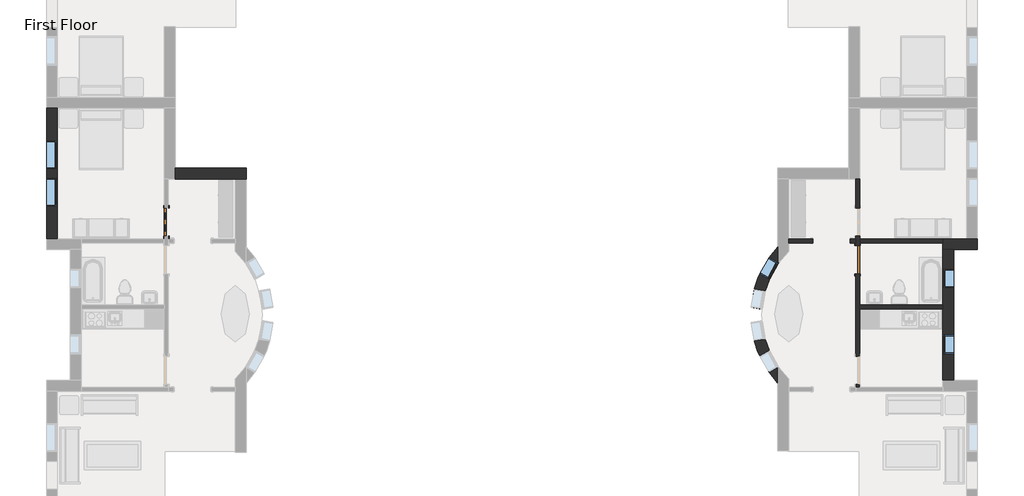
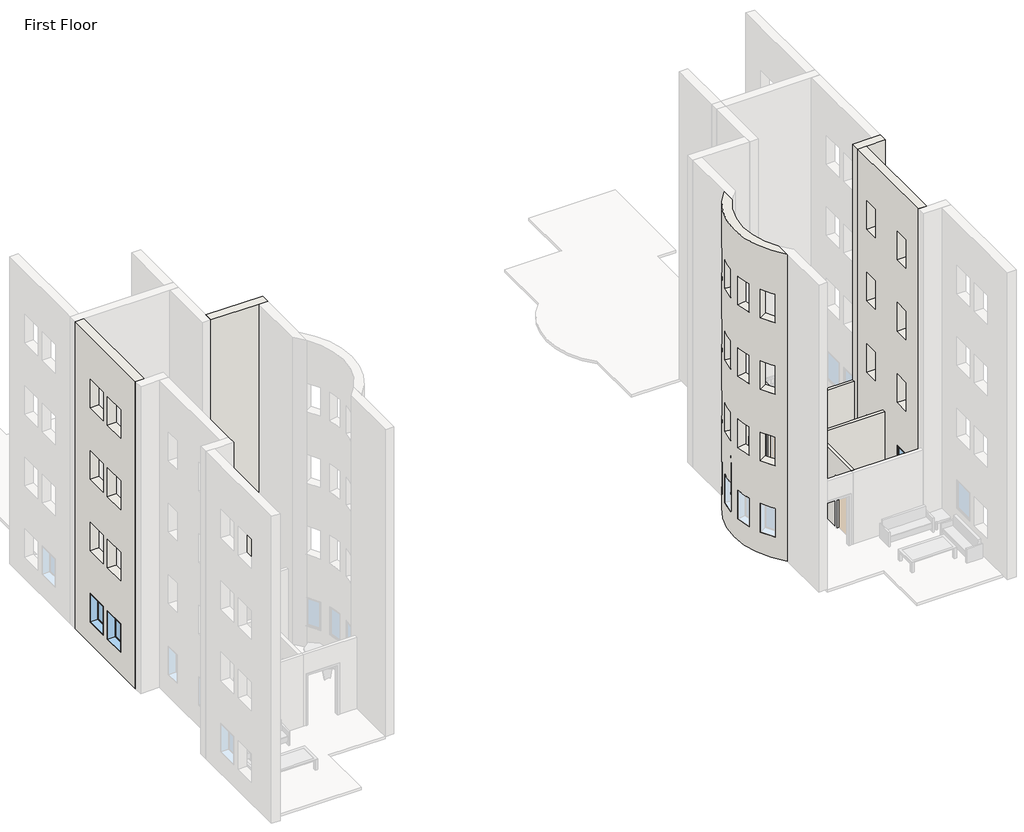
# One storey, part 7 of 21: 9 walls, 5 windows, 2 doors.
"""IFC4 building model written with IfcOpenShell, lengths in millimetres."""

from ifc_helpers import new_model, si_unit, frame, origin, origin_with_axes, place, context, project, spatial, polyline, circle_curve, outline, extrude, faceted_brep, transform, mapped, element, save
from ifc_brep_helpers import plane_surface, cylinder_surface, revolved_surface, advanced_brep
from components import door_829da954, door_a3eb833a, window_60baf983, window_0e2fc6ce

model = new_model("IFC4")

# Units and contexts
model_context = context("Model", 3, world=origin())
ifc_project = project(units=[si_unit("LENGTHUNIT", "METRE", prefix="MILLI")], contexts=[model_context])

# Site, building, storey
site = spatial("IfcSite", under=ifc_project)
building = spatial("IfcBuilding", under=site)
storey = spatial("IfcBuildingStorey", under=building, Name="First Floor", Elevation=0.0)

# Doors
placement = place(None, origin())
door_shape = door_829da954(model_context)
element("IfcDoor", 1, ObjectType="Single-Decorative 2 : 36\" x 84\"", at=placement, inside=storey, context=model_context, shape_type="MappedRepresentation", body=[
    mapped(door_shape, transform((-26223.8839563, -15695.1308133, 0.0), x_axis=(0.0, -1.0, 0.0), y_axis=(1.0, 0.0, 0.0), z_axis=(0.0, 0.0, 1.0))),
])
door_2_shape = door_a3eb833a(model_context)
element("IfcDoor", 2, ObjectType="Single-Flush : 36\" x 84\"", at=placement, inside=storey, context=model_context, shape_type="MappedRepresentation", body=[
    mapped(door_2_shape, transform((-3900.4589563, -16914.3308133, 0.0), x_axis=(0.0, 1.0, 0.0), y_axis=(-1.0, 0.0, 0.0), z_axis=(0.0, 0.0, 1.0))),
])

# Walls
element("IfcWall", 3, ObjectType="Exterior - Brick on Mtl. Stud", at=placement, inside=storey, context=model_context, shape_type="Brep", body=[
    faceted_brep([(-26.9589563, -16241.2308133, 0.0), (-379.3839563, -16241.2308133, 0.0), (-1141.3839563, -16241.2308133, 0.0), (-1141.3839563, -16241.2308133, 3048.0), (-1141.3839563, -16241.2308133, 13106.4), (-379.3839563, -16241.2308133, 13106.4), (-26.9589563, -16241.2308133, 13106.4), (-26.9589563, -16593.6558133, 0.0), (-26.9589563, -16593.6558133, 13106.4), (-788.9589563, -16593.6558133, 13106.4), (-1141.3839563, -16593.6558133, 13106.4), (-1141.3839563, -16593.6558133, 0.0), (-788.9589563, -16593.6558133, 0.0), (-1141.3839563, -16368.2308133, 0.0)], [[[0, 1, 2, 3, 4, 5, 6]], [[7, 8, 9, 10, 11, 12]], [[2, 1, 0, 7, 12, 11, 13]], [[6, 5, 4, 10, 9, 8]], [[0, 6, 8, 7]], [[2, 13, 11, 10, 4, 3]]]),
])
element("IfcWall", 4, ObjectType="Exterior - Brick on Mtl. Stud", at=placement, inside=storey, context=model_context, shape_type="Brep", body=[
    faceted_brep([(-1141.3839563, -16593.6558133, 0.0), (-1141.3839563, -18374.8308133, 0.0), (-1141.3839563, -18501.8308133, 0.0), (-1141.3839563, -20813.2308133, 0.0), (-1141.3839563, -20813.2308133, 13106.4), (-1141.3839563, -16593.6558133, 13106.4), (-1141.3839563, -17219.1308133, 8229.6), (-1141.3839563, -17828.7308133, 8229.6), (-1141.3839563, -17828.7308133, 7010.4), (-1141.3839563, -17219.1308133, 7010.4), (-1141.3839563, -19352.7308133, 8229.6), (-1141.3839563, -19962.3308133, 8229.6), (-1141.3839563, -19962.3308133, 7010.4), (-1141.3839563, -19352.7308133, 7010.4), (-1141.3839563, -17219.1308133, 5181.6), (-1141.3839563, -17828.7308133, 5181.6), (-1141.3839563, -17828.7308133, 3962.4), (-1141.3839563, -17219.1308133, 3962.4), (-1141.3839563, -19352.7308133, 5181.6), (-1141.3839563, -19962.3308133, 5181.6), (-1141.3839563, -19962.3308133, 3962.4), (-1141.3839563, -19352.7308133, 3962.4), (-1141.3839563, -17219.1308133, 11277.6), (-1141.3839563, -17828.7308133, 11277.6), (-1141.3839563, -17828.7308133, 10058.4), (-1141.3839563, -17219.1308133, 10058.4), (-1141.3839563, -19352.7308133, 11277.6), (-1141.3839563, -19962.3308133, 11277.6), (-1141.3839563, -19962.3308133, 10058.4), (-1141.3839563, -19352.7308133, 10058.4), (-1141.3839563, -17219.1308133, 2133.6), (-1141.3839563, -17828.7308133, 2133.6), (-1141.3839563, -17828.7308133, 914.4), (-1141.3839563, -17219.1308133, 914.4), (-1141.3839563, -19352.7308133, 2133.6), (-1141.3839563, -19962.3308133, 2133.6), (-1141.3839563, -19962.3308133, 914.4), (-1141.3839563, -19352.7308133, 914.4), (-788.9589563, -16593.6558133, 0.0), (-788.9589563, -16593.6558133, 13106.4), (-788.9589563, -20813.2308133, 13106.4), (-788.9589563, -20813.2308133, 0.0), (-788.9589563, -17219.1308133, 8229.6), (-788.9589563, -17219.1308133, 7010.4), (-788.9589563, -17828.7308133, 7010.4), (-788.9589563, -17828.7308133, 8229.6), (-788.9589563, -19352.7308133, 8229.6), (-788.9589563, -19352.7308133, 7010.4), (-788.9589563, -19962.3308133, 7010.4), (-788.9589563, -19962.3308133, 8229.6), (-788.9589563, -17219.1308133, 5181.6), (-788.9589563, -17219.1308133, 3962.4), (-788.9589563, -17828.7308133, 3962.4), (-788.9589563, -17828.7308133, 5181.6), (-788.9589563, -19352.7308133, 5181.6), (-788.9589563, -19352.7308133, 3962.4), (-788.9589563, -19962.3308133, 3962.4), (-788.9589563, -19962.3308133, 5181.6), (-788.9589563, -17219.1308133, 11277.6), (-788.9589563, -17219.1308133, 10058.4), (-788.9589563, -17828.7308133, 10058.4), (-788.9589563, -17828.7308133, 11277.6), (-788.9589563, -19352.7308133, 11277.6), (-788.9589563, -19352.7308133, 10058.4), (-788.9589563, -19962.3308133, 10058.4), (-788.9589563, -19962.3308133, 11277.6), (-788.9589563, -17219.1308133, 2133.6), (-788.9589563, -17219.1308133, 914.4), (-788.9589563, -17828.7308133, 914.4), (-788.9589563, -17828.7308133, 2133.6), (-788.9589563, -19352.7308133, 2133.6), (-788.9589563, -19352.7308133, 914.4), (-788.9589563, -19962.3308133, 914.4), (-788.9589563, -19962.3308133, 2133.6)], [[[0, 1, 2, 3, 4, 5], [6, 7, 8, 9], [10, 11, 12, 13], [14, 15, 16, 17], [18, 19, 20, 21], [22, 23, 24, 25], [26, 27, 28, 29], [30, 31, 32, 33], [34, 35, 36, 37]], [[38, 39, 40, 41], [42, 43, 44, 45], [46, 47, 48, 49], [50, 51, 52, 53], [54, 55, 56, 57], [58, 59, 60, 61], [62, 63, 64, 65], [66, 67, 68, 69], [70, 71, 72, 73]], [[3, 2, 1, 0, 38, 41]], [[5, 4, 40, 39]], [[0, 5, 39, 38]], [[4, 3, 41, 40]], [[43, 42, 6, 9]], [[44, 43, 9, 8]], [[45, 44, 8, 7]], [[42, 45, 7, 6]], [[47, 46, 10, 13]], [[48, 47, 13, 12]], [[49, 48, 12, 11]], [[46, 49, 11, 10]], [[51, 50, 14, 17]], [[52, 51, 17, 16]], [[53, 52, 16, 15]], [[50, 53, 15, 14]], [[55, 54, 18, 21]], [[56, 55, 21, 20]], [[57, 56, 20, 19]], [[54, 57, 19, 18]], [[59, 58, 22, 25]], [[60, 59, 25, 24]], [[61, 60, 24, 23]], [[58, 61, 23, 22]], [[63, 62, 26, 29]], [[64, 63, 29, 28]], [[65, 64, 28, 27]], [[62, 65, 27, 26]], [[67, 66, 30, 33]], [[68, 67, 33, 32]], [[69, 68, 32, 31]], [[66, 69, 31, 30]], [[71, 70, 34, 37]], [[72, 71, 37, 36]], [[73, 72, 36, 35]], [[70, 73, 35, 34]]]),
])
element("IfcWall", 5, ObjectType="Exterior - Brick on Mtl. Stud", at=placement, inside=storey, context=model_context, shape_type="AdvancedBrep", body=[
    advanced_brep(
    [(-6475.3839563, -20349.9339631, 13106.4), (-6475.3839563, -17056.9526635, 13106.4), (-6475.3839563, -16499.0580793, 13106.4), (-6475.3839563, -20907.8285473, 13106.4), (-6475.3839563, -17056.9526635, 0.0), (-6475.3839563, -20349.9339631, 0.0), (-6475.3839563, -20907.8285473, 0.0), (-6475.3839563, -16499.0580793, 0.0), (-6475.3839563, -20349.9339631, 11277.6), (-6752.944107, -19855.7185526, 11277.6), (-6752.944107, -19855.7185526, 10058.4), (-6475.3839563, -20349.9339631, 10058.4), (-6475.3839563, -20349.9339631, 8229.6), (-6752.944107, -19855.7185526, 8229.6), (-6752.944107, -19855.7185526, 7010.4), (-6475.3839563, -20349.9339631, 7010.4), (-6475.3839563, -20349.9339631, 5181.6), (-6752.944107, -19855.7185526, 5181.6), (-6752.944107, -19855.7185526, 3962.4), (-6475.3839563, -20349.9339631, 3962.4), (-6475.3839563, -20349.9339631, 2133.6), (-6752.944107, -19855.7185526, 2133.6), (-6752.944107, -19855.7185526, 914.4), (-6475.3839563, -20349.9339631, 914.4), (-6475.3839563, -17056.9526635, 914.4), (-6752.944107, -17551.168074, 914.4), (-6752.944107, -17551.168074, 2133.6), (-6475.3839563, -17056.9526635, 2133.6), (-6475.3839563, -17056.9526635, 3962.4), (-6752.944107, -17551.168074, 3962.4), (-6752.944107, -17551.168074, 5181.6), (-6475.3839563, -17056.9526635, 5181.6), (-6475.3839563, -17056.9526635, 7010.4), (-6752.944107, -17551.168074, 7010.4), (-6752.944107, -17551.168074, 8229.6), (-6475.3839563, -17056.9526635, 8229.6), (-6475.3839563, -17056.9526635, 10058.4), (-6752.944107, -17551.168074, 10058.4), (-6752.944107, -17551.168074, 11277.6), (-6475.3839563, -17056.9526635, 11277.6), (-6988.33136, -18887.7477595, 8229.6), (-6988.33136, -18887.7477595, 7010.4), (-6884.862554, -19488.5025899, 7010.4), (-6884.862554, -19488.5025899, 8229.6), (-6988.33136, -18519.1388671, 8229.6), (-6884.862554, -17918.3840368, 8229.6), (-6884.862554, -17918.3840368, 7010.4), (-6988.33136, -18519.1388671, 7010.4), (-6988.33136, -18887.7477595, 5181.6), (-6988.33136, -18887.7477595, 3962.4), (-6884.862554, -19488.5025899, 3962.4), (-6884.862554, -19488.5025899, 5181.6), (-6988.33136, -18519.1388671, 5181.6), (-6884.862554, -17918.3840368, 5181.6), (-6884.862554, -17918.3840368, 3962.4), (-6988.33136, -18519.1388671, 3962.4), (-6988.33136, -18887.7477595, 11277.6), (-6988.33136, -18887.7477595, 10058.4), (-6884.862554, -19488.5025899, 10058.4), (-6884.862554, -19488.5025899, 11277.6), (-6988.33136, -18519.1388671, 11277.6), (-6884.862554, -17918.3840368, 11277.6), (-6884.862554, -17918.3840368, 10058.4), (-6988.33136, -18519.1388671, 10058.4), (-6988.33136, -18887.7477595, 2133.6), (-6988.33136, -18887.7477595, 914.4), (-6884.862554, -19488.5025899, 914.4), (-6884.862554, -19488.5025899, 2133.6), (-6988.33136, -18519.1388671, 2133.6), (-6884.862554, -17918.3840368, 2133.6), (-6884.862554, -17918.3840368, 914.4), (-6988.33136, -18519.1388671, 914.4), (-7060.4709271, -17375.4139611, 2133.6), (-7060.4709271, -17375.4139611, 914.4), (-6757.9928429, -16846.1511071, 914.4), (-6757.9928429, -16846.1511071, 2133.6), (-7060.4709271, -20031.4726656, 914.4), (-7060.4709271, -20031.4726656, 2133.6), (-6757.9928429, -20560.7355195, 2133.6), (-6757.9928429, -20560.7355195, 914.4), (-7060.4709271, -17375.4139611, 11277.6), (-7060.4709271, -17375.4139611, 10058.4), (-6757.9928429, -16846.1511071, 10058.4), (-6757.9928429, -16846.1511071, 11277.6), (-7060.4709271, -20031.4726656, 10058.4), (-7060.4709271, -20031.4726656, 11277.6), (-6757.9928429, -20560.7355195, 11277.6), (-6757.9928429, -20560.7355195, 10058.4), (-7060.4709271, -17375.4139611, 5181.6), (-7060.4709271, -17375.4139611, 3962.4), (-6757.9928429, -16846.1511071, 3962.4), (-6757.9928429, -16846.1511071, 5181.6), (-7060.4709271, -20031.4726656, 3962.4), (-7060.4709271, -20031.4726656, 5181.6), (-6757.9928429, -20560.7355195, 5181.6), (-6757.9928429, -20560.7355195, 3962.4), (-7060.4709271, -17375.4139611, 8229.6), (-7060.4709271, -17375.4139611, 7010.4), (-6757.9928429, -16846.1511071, 7010.4), (-6757.9928429, -16846.1511071, 8229.6), (-7060.4709271, -20031.4726656, 7010.4), (-7060.4709271, -20031.4726656, 8229.6), (-6757.9928429, -20560.7355195, 8229.6), (-6757.9928429, -20560.7355195, 7010.4), (-7337.3984091, -18947.8680431, 8229.6), (-7233.9296032, -19548.6228734, 8229.6), (-7233.9296032, -19548.6228734, 7010.4), (-7337.3984091, -18947.8680431, 7010.4), (-7337.3984091, -18459.0185836, 8229.6), (-7337.3984091, -18459.0185836, 7010.4), (-7233.9296032, -17858.2637532, 7010.4), (-7233.9296032, -17858.2637532, 8229.6), (-7337.3984091, -18947.8680431, 5181.6), (-7233.9296032, -19548.6228734, 5181.6), (-7233.9296032, -19548.6228734, 3962.4), (-7337.3984091, -18947.8680431, 3962.4), (-7337.3984091, -18459.0185836, 5181.6), (-7337.3984091, -18459.0185836, 3962.4), (-7233.9296032, -17858.2637532, 3962.4), (-7233.9296032, -17858.2637532, 5181.6), (-7337.3984091, -18947.8680431, 11277.6), (-7233.9296032, -19548.6228734, 11277.6), (-7233.9296032, -19548.6228734, 10058.4), (-7337.3984091, -18947.8680431, 10058.4), (-7337.3984091, -18459.0185836, 11277.6), (-7337.3984091, -18459.0185836, 10058.4), (-7233.9296032, -17858.2637532, 10058.4), (-7233.9296032, -17858.2637532, 11277.6), (-7337.3984091, -18947.8680431, 2133.6), (-7233.9296032, -19548.6228734, 2133.6), (-7233.9296032, -19548.6228734, 914.4), (-7337.3984091, -18947.8680431, 914.4), (-7337.3984091, -18459.0185836, 2133.6), (-7337.3984091, -18459.0185836, 914.4), (-7233.9296032, -17858.2637532, 914.4), (-7233.9296032, -17858.2637532, 2133.6), (-6475.3839563, -20399.222211, 914.4), (-6475.3839563, -20399.222211, 2133.6), (-6475.3839563, -20399.222211, 3962.4), (-6475.3839563, -20399.222211, 5181.6), (-6475.3839563, -20399.222211, 7010.4), (-6475.3839563, -20399.222211, 8229.6), (-6475.3839563, -20399.222211, 10058.4), (-6475.3839563, -20399.222211, 11277.6), (-6475.3839563, -17007.6644156, 11277.6), (-6475.3839563, -17007.6644156, 10058.4), (-6475.3839563, -17007.6644156, 8229.6), (-6475.3839563, -17007.6644156, 7010.4), (-6475.3839563, -17007.6644156, 5181.6), (-6475.3839563, -17007.6644156, 3962.4), (-6475.3839563, -17007.6644156, 2133.6), (-6475.3839563, -17007.6644156, 914.4)],
    [
        (0, 1, circle_curve(frame((-4122.4640713, -18703.4433133, 13106.4), z_axis=(0.0, 0.0, -1.0), x_axis=(0.0, -1.0, 0.0)), 2871.7875)),
        (1, 2),
        (2, 3, circle_curve(frame((-4122.4640713, -18703.4433133, 13106.4), z_axis=(0.0, 0.0, 1.0), x_axis=(0.0, -1.0, 0.0)), 3224.2125)),
        (3, 0),
        (4, 5, circle_curve(frame((-4122.4640713, -18703.4433133, 0.0), z_axis=(0.0, 0.0, 1.0), x_axis=(0.0, -1.0, 0.0)), 2871.7875)),
        (5, 6),
        (6, 7, circle_curve(frame((-4122.4640713, -18703.4433133, 0.0), z_axis=(0.0, 0.0, -1.0), x_axis=(0.0, -1.0, 0.0)), 3224.2125)),
        (7, 4),
        (0, 8),
        (8, 9, circle_curve(frame((-4122.4640713, -18703.4433133, 11277.6), z_axis=(0.0, 0.0, -1.0), x_axis=(0.0, -1.0, 0.0)), 2871.7875)),
        (9, 10),
        (10, 11, circle_curve(frame((-4122.4640713, -18703.4433133, 10058.4), z_axis=(0.0, 0.0, 1.0), x_axis=(0.0, -1.0, 0.0)), 2871.7875)),
        (11, 12),
        (12, 13, circle_curve(frame((-4122.4640713, -18703.4433133, 8229.6), z_axis=(0.0, 0.0, -1.0), x_axis=(0.0, -1.0, 0.0)), 2871.7875)),
        (13, 14),
        (14, 15, circle_curve(frame((-4122.4640713, -18703.4433133, 7010.4), z_axis=(0.0, 0.0, 1.0), x_axis=(0.0, -1.0, 0.0)), 2871.7875)),
        (15, 16),
        (16, 17, circle_curve(frame((-4122.4640713, -18703.4433133, 5181.6), z_axis=(0.0, 0.0, -1.0), x_axis=(0.0, -1.0, 0.0)), 2871.7875)),
        (17, 18),
        (18, 19, circle_curve(frame((-4122.4640713, -18703.4433133, 3962.4), z_axis=(0.0, 0.0, 1.0), x_axis=(0.0, -1.0, 0.0)), 2871.7875)),
        (19, 20),
        (20, 21, circle_curve(frame((-4122.4640713, -18703.4433133, 2133.6), z_axis=(0.0, 0.0, -1.0), x_axis=(0.0, -1.0, 0.0)), 2871.7875)),
        (21, 22),
        (22, 23, circle_curve(frame((-4122.4640713, -18703.4433133, 914.4), z_axis=(0.0, 0.0, 1.0), x_axis=(0.0, -1.0, 0.0)), 2871.7875)),
        (23, 5),
        (4, 24),
        (24, 25, circle_curve(frame((-4122.4640713, -18703.4433133, 914.4), z_axis=(0.0, 0.0, 1.0), x_axis=(0.0, -1.0, 0.0)), 2871.7875)),
        (25, 26),
        (26, 27, circle_curve(frame((-4122.4640713, -18703.4433133, 2133.6), z_axis=(0.0, 0.0, -1.0), x_axis=(0.0, -1.0, 0.0)), 2871.7875)),
        (27, 28),
        (28, 29, circle_curve(frame((-4122.4640713, -18703.4433133, 3962.4), z_axis=(0.0, 0.0, 1.0), x_axis=(0.0, -1.0, 0.0)), 2871.7875)),
        (29, 30),
        (30, 31, circle_curve(frame((-4122.4640713, -18703.4433133, 5181.6), z_axis=(0.0, 0.0, -1.0), x_axis=(0.0, -1.0, 0.0)), 2871.7875)),
        (31, 32),
        (32, 33, circle_curve(frame((-4122.4640713, -18703.4433133, 7010.4), z_axis=(0.0, 0.0, 1.0), x_axis=(0.0, -1.0, 0.0)), 2871.7875)),
        (33, 34),
        (34, 35, circle_curve(frame((-4122.4640713, -18703.4433133, 8229.6), z_axis=(0.0, 0.0, -1.0), x_axis=(0.0, -1.0, 0.0)), 2871.7875)),
        (35, 36),
        (36, 37, circle_curve(frame((-4122.4640713, -18703.4433133, 10058.4), z_axis=(0.0, 0.0, 1.0), x_axis=(0.0, -1.0, 0.0)), 2871.7875)),
        (37, 38),
        (38, 39, circle_curve(frame((-4122.4640713, -18703.4433133, 11277.6), z_axis=(0.0, 0.0, -1.0), x_axis=(0.0, -1.0, 0.0)), 2871.7875)),
        (39, 1),
        (40, 41),
        (41, 42, circle_curve(frame((-4122.4640713, -18703.4433133, 7010.4), z_axis=(0.0, 0.0, 1.0), x_axis=(0.0, -1.0, 0.0)), 2871.7875)),
        (42, 43),
        (43, 40, circle_curve(frame((-4122.4640713, -18703.4433133, 8229.6), z_axis=(0.0, 0.0, -1.0), x_axis=(0.0, -1.0, 0.0)), 2871.7875)),
        (44, 45, circle_curve(frame((-4122.4640713, -18703.4433133, 8229.6), z_axis=(0.0, 0.0, -1.0), x_axis=(0.0, -1.0, 0.0)), 2871.7875)),
        (45, 46),
        (46, 47, circle_curve(frame((-4122.4640713, -18703.4433133, 7010.4), z_axis=(0.0, 0.0, 1.0), x_axis=(0.0, -1.0, 0.0)), 2871.7875)),
        (47, 44),
        (48, 49),
        (49, 50, circle_curve(frame((-4122.4640713, -18703.4433133, 3962.4), z_axis=(0.0, 0.0, 1.0), x_axis=(0.0, -1.0, 0.0)), 2871.7875)),
        (50, 51),
        (51, 48, circle_curve(frame((-4122.4640713, -18703.4433133, 5181.6), z_axis=(0.0, 0.0, -1.0), x_axis=(0.0, -1.0, 0.0)), 2871.7875)),
        (52, 53, circle_curve(frame((-4122.4640713, -18703.4433133, 5181.6), z_axis=(0.0, 0.0, -1.0), x_axis=(0.0, -1.0, 0.0)), 2871.7875)),
        (53, 54),
        (54, 55, circle_curve(frame((-4122.4640713, -18703.4433133, 3962.4), z_axis=(0.0, 0.0, 1.0), x_axis=(0.0, -1.0, 0.0)), 2871.7875)),
        (55, 52),
        (56, 57),
        (57, 58, circle_curve(frame((-4122.4640713, -18703.4433133, 10058.4), z_axis=(0.0, 0.0, 1.0), x_axis=(0.0, -1.0, 0.0)), 2871.7875)),
        (58, 59),
        (59, 56, circle_curve(frame((-4122.4640713, -18703.4433133, 11277.6), z_axis=(0.0, 0.0, -1.0), x_axis=(0.0, -1.0, 0.0)), 2871.7875)),
        (60, 61, circle_curve(frame((-4122.4640713, -18703.4433133, 11277.6), z_axis=(0.0, 0.0, -1.0), x_axis=(0.0, -1.0, 0.0)), 2871.7875)),
        (61, 62),
        (62, 63, circle_curve(frame((-4122.4640713, -18703.4433133, 10058.4), z_axis=(0.0, 0.0, 1.0), x_axis=(0.0, -1.0, 0.0)), 2871.7875)),
        (63, 60),
        (64, 65),
        (65, 66, circle_curve(frame((-4122.4640713, -18703.4433133, 914.4), z_axis=(0.0, 0.0, 1.0), x_axis=(0.0, -1.0, 0.0)), 2871.7875)),
        (66, 67),
        (67, 64, circle_curve(frame((-4122.4640713, -18703.4433133, 2133.6), z_axis=(0.0, 0.0, -1.0), x_axis=(0.0, -1.0, 0.0)), 2871.7875)),
        (68, 69, circle_curve(frame((-4122.4640713, -18703.4433133, 2133.6), z_axis=(0.0, 0.0, -1.0), x_axis=(0.0, -1.0, 0.0)), 2871.7875)),
        (69, 70),
        (70, 71, circle_curve(frame((-4122.4640713, -18703.4433133, 914.4), z_axis=(0.0, 0.0, 1.0), x_axis=(0.0, -1.0, 0.0)), 2871.7875)),
        (71, 68),
        (2, 7),
        (6, 3),
        (72, 73),
        (73, 74, circle_curve(frame((-4122.4640713, -18703.4433133, 914.4), z_axis=(0.0, 0.0, -1.0), x_axis=(0.0, -1.0, 0.0)), 3224.2125)),
        (74, 75),
        (75, 72, circle_curve(frame((-4122.4640713, -18703.4433133, 2133.6), z_axis=(0.0, 0.0, 1.0), x_axis=(0.0, -1.0, 0.0)), 3224.2125)),
        (76, 77),
        (77, 78, circle_curve(frame((-4122.4640713, -18703.4433133, 2133.6), z_axis=(0.0, 0.0, 1.0), x_axis=(0.0, -1.0, 0.0)), 3224.2125)),
        (78, 79),
        (79, 76, circle_curve(frame((-4122.4640713, -18703.4433133, 914.4), z_axis=(0.0, 0.0, -1.0), x_axis=(0.0, -1.0, 0.0)), 3224.2125)),
        (80, 81),
        (81, 82, circle_curve(frame((-4122.4640713, -18703.4433133, 10058.4), z_axis=(0.0, 0.0, -1.0), x_axis=(0.0, -1.0, 0.0)), 3224.2125)),
        (82, 83),
        (83, 80, circle_curve(frame((-4122.4640713, -18703.4433133, 11277.6), z_axis=(0.0, 0.0, 1.0), x_axis=(0.0, -1.0, 0.0)), 3224.2125)),
        (84, 85),
        (85, 86, circle_curve(frame((-4122.4640713, -18703.4433133, 11277.6), z_axis=(0.0, 0.0, 1.0), x_axis=(0.0, -1.0, 0.0)), 3224.2125)),
        (86, 87),
        (87, 84, circle_curve(frame((-4122.4640713, -18703.4433133, 10058.4), z_axis=(0.0, 0.0, -1.0), x_axis=(0.0, -1.0, 0.0)), 3224.2125)),
        (88, 89),
        (89, 90, circle_curve(frame((-4122.4640713, -18703.4433133, 3962.4), z_axis=(0.0, 0.0, -1.0), x_axis=(0.0, -1.0, 0.0)), 3224.2125)),
        (90, 91),
        (91, 88, circle_curve(frame((-4122.4640713, -18703.4433133, 5181.6), z_axis=(0.0, 0.0, 1.0), x_axis=(0.0, -1.0, 0.0)), 3224.2125)),
        (92, 93),
        (93, 94, circle_curve(frame((-4122.4640713, -18703.4433133, 5181.6), z_axis=(0.0, 0.0, 1.0), x_axis=(0.0, -1.0, 0.0)), 3224.2125)),
        (94, 95),
        (95, 92, circle_curve(frame((-4122.4640713, -18703.4433133, 3962.4), z_axis=(0.0, 0.0, -1.0), x_axis=(0.0, -1.0, 0.0)), 3224.2125)),
        (96, 97),
        (97, 98, circle_curve(frame((-4122.4640713, -18703.4433133, 7010.4), z_axis=(0.0, 0.0, -1.0), x_axis=(0.0, -1.0, 0.0)), 3224.2125)),
        (98, 99),
        (99, 96, circle_curve(frame((-4122.4640713, -18703.4433133, 8229.6), z_axis=(0.0, 0.0, 1.0), x_axis=(0.0, -1.0, 0.0)), 3224.2125)),
        (100, 101),
        (101, 102, circle_curve(frame((-4122.4640713, -18703.4433133, 8229.6), z_axis=(0.0, 0.0, 1.0), x_axis=(0.0, -1.0, 0.0)), 3224.2125)),
        (102, 103),
        (103, 100, circle_curve(frame((-4122.4640713, -18703.4433133, 7010.4), z_axis=(0.0, 0.0, -1.0), x_axis=(0.0, -1.0, 0.0)), 3224.2125)),
        (104, 105, circle_curve(frame((-4122.4640713, -18703.4433133, 8229.6), z_axis=(0.0, 0.0, 1.0), x_axis=(0.0, -1.0, 0.0)), 3224.2125)),
        (105, 106),
        (106, 107, circle_curve(frame((-4122.4640713, -18703.4433133, 7010.4), z_axis=(0.0, 0.0, -1.0), x_axis=(0.0, -1.0, 0.0)), 3224.2125)),
        (107, 104),
        (108, 109),
        (109, 110, circle_curve(frame((-4122.4640713, -18703.4433133, 7010.4), z_axis=(0.0, 0.0, -1.0), x_axis=(0.0, -1.0, 0.0)), 3224.2125)),
        (110, 111),
        (111, 108, circle_curve(frame((-4122.4640713, -18703.4433133, 8229.6), z_axis=(0.0, 0.0, 1.0), x_axis=(0.0, -1.0, 0.0)), 3224.2125)),
        (112, 113, circle_curve(frame((-4122.4640713, -18703.4433133, 5181.6), z_axis=(0.0, 0.0, 1.0), x_axis=(0.0, -1.0, 0.0)), 3224.2125)),
        (113, 114),
        (114, 115, circle_curve(frame((-4122.4640713, -18703.4433133, 3962.4), z_axis=(0.0, 0.0, -1.0), x_axis=(0.0, -1.0, 0.0)), 3224.2125)),
        (115, 112),
        (116, 117),
        (117, 118, circle_curve(frame((-4122.4640713, -18703.4433133, 3962.4), z_axis=(0.0, 0.0, -1.0), x_axis=(0.0, -1.0, 0.0)), 3224.2125)),
        (118, 119),
        (119, 116, circle_curve(frame((-4122.4640713, -18703.4433133, 5181.6), z_axis=(0.0, 0.0, 1.0), x_axis=(0.0, -1.0, 0.0)), 3224.2125)),
        (120, 121, circle_curve(frame((-4122.4640713, -18703.4433133, 11277.6), z_axis=(0.0, 0.0, 1.0), x_axis=(0.0, -1.0, 0.0)), 3224.2125)),
        (121, 122),
        (122, 123, circle_curve(frame((-4122.4640713, -18703.4433133, 10058.4), z_axis=(0.0, 0.0, -1.0), x_axis=(0.0, -1.0, 0.0)), 3224.2125)),
        (123, 120),
        (124, 125),
        (125, 126, circle_curve(frame((-4122.4640713, -18703.4433133, 10058.4), z_axis=(0.0, 0.0, -1.0), x_axis=(0.0, -1.0, 0.0)), 3224.2125)),
        (126, 127),
        (127, 124, circle_curve(frame((-4122.4640713, -18703.4433133, 11277.6), z_axis=(0.0, 0.0, 1.0), x_axis=(0.0, -1.0, 0.0)), 3224.2125)),
        (128, 129, circle_curve(frame((-4122.4640713, -18703.4433133, 2133.6), z_axis=(0.0, 0.0, 1.0), x_axis=(0.0, -1.0, 0.0)), 3224.2125)),
        (129, 130),
        (130, 131, circle_curve(frame((-4122.4640713, -18703.4433133, 914.4), z_axis=(0.0, 0.0, -1.0), x_axis=(0.0, -1.0, 0.0)), 3224.2125)),
        (131, 128),
        (132, 133),
        (133, 134, circle_curve(frame((-4122.4640713, -18703.4433133, 914.4), z_axis=(0.0, 0.0, -1.0), x_axis=(0.0, -1.0, 0.0)), 3224.2125)),
        (134, 135),
        (135, 132, circle_curve(frame((-4122.4640713, -18703.4433133, 2133.6), z_axis=(0.0, 0.0, 1.0), x_axis=(0.0, -1.0, 0.0)), 3224.2125)),
        (23, 136),
        (136, 137),
        (137, 20),
        (19, 138),
        (138, 139),
        (139, 16),
        (15, 140),
        (140, 141),
        (141, 12),
        (11, 142),
        (142, 143),
        (143, 8),
        (39, 144),
        (144, 145),
        (145, 36),
        (35, 146),
        (146, 147),
        (147, 32),
        (31, 148),
        (148, 149),
        (149, 28),
        (27, 150),
        (150, 151),
        (151, 24),
        (72, 26),
        (25, 73),
        (151, 74),
        (150, 75),
        (21, 77),
        (76, 22),
        (79, 136),
        (78, 137),
        (80, 38),
        (37, 81),
        (145, 82),
        (144, 83),
        (9, 85),
        (84, 10),
        (87, 142),
        (86, 143),
        (88, 30),
        (29, 89),
        (149, 90),
        (148, 91),
        (17, 93),
        (92, 18),
        (95, 138),
        (94, 139),
        (96, 34),
        (33, 97),
        (147, 98),
        (146, 99),
        (13, 101),
        (100, 14),
        (103, 140),
        (102, 141),
        (40, 104),
        (107, 41),
        (106, 42),
        (105, 43),
        (108, 44),
        (47, 109),
        (46, 110),
        (45, 111),
        (48, 112),
        (115, 49),
        (114, 50),
        (113, 51),
        (116, 52),
        (55, 117),
        (54, 118),
        (53, 119),
        (56, 120),
        (123, 57),
        (122, 58),
        (121, 59),
        (124, 60),
        (63, 125),
        (62, 126),
        (61, 127),
        (64, 128),
        (131, 65),
        (130, 66),
        (129, 67),
        (132, 68),
        (71, 133),
        (70, 134),
        (69, 135),
    ],
    [
        plane_surface(frame((-4122.4640713, -21575.2308133, 13106.4), z_axis=(0.0, 0.0, 1.0), x_axis=(-1.0, 0.0, 0.0))),
        plane_surface(frame((-4122.4640713, -21575.2308133, 0.0), z_axis=(0.0, 0.0, -1.0), x_axis=(1.0, 0.0, 0.0))),
        revolved_surface(polyline([(-4122.4640713, -21575.230813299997, 0.0), (-4122.4640713, -21575.230813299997, 13106.4)]), (-4122.4640713, -18703.4433133, 0.0), (0.0, 0.0, -1.0)),
        cylinder_surface(frame((-4122.4640713, -18703.4433133, 0.0), z_axis=(0.0, 0.0, 1.0), x_axis=(0.0, -1.0, 0.0)), 3224.2125),
        plane_surface(frame((-6475.3839563, -23275.4433133, 0.0), z_axis=(1.0, 0.0, 0.0), x_axis=(0.0, -1.0, 0.0))),
        plane_surface(frame((-6475.3839563, -14131.4433133, 0.0), z_axis=(1.0, 0.0, 0.0), x_axis=(0.0, -1.0, 0.0))),
        plane_surface(frame((-5735.7670595, -18132.4931421, 2133.6), z_axis=(0.49619108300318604, 0.8682133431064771, 0.0), x_axis=(-0.8682133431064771, 0.49619108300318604, 0.0))),
        plane_surface(frame((-5735.7670595, -18132.4931421, 914.4), z_axis=(0.0, 0.0, 1.0), x_axis=(-0.8682133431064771, 0.49619108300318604, 0.0))),
        plane_surface(frame((-5433.2889753, -17603.2302881, 914.4), z_axis=(-0.49619108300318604, -0.8682133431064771, 0.0), x_axis=(-0.8682133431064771, 0.49619108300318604, 0.0))),
        plane_surface(frame((-5433.2889753, -17603.2302881, 2133.6), z_axis=(0.0, 0.0, -1.0), x_axis=(-0.8682133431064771, 0.49619108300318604, 0.0))),
        plane_surface(frame((-8382.0813293, -20786.7839056, 2133.6), z_axis=(0.49619108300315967, -0.8682133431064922, 0.0), x_axis=(0.8682133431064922, 0.49619108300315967, 0.0))),
        plane_surface(frame((-8382.0813293, -20786.7839056, 914.4), z_axis=(0.0, 0.0, 1.0), x_axis=(0.868213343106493, 0.4961910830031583, 0.0))),
        plane_surface(frame((-8079.6032451, -21316.0467595, 914.4), z_axis=(-0.4961910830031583, 0.868213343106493, 0.0), x_axis=(0.868213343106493, 0.4961910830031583, 0.0))),
        plane_surface(frame((-8079.6032451, -21316.0467595, 2133.6), z_axis=(0.0, 0.0, -1.0), x_axis=(0.868213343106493, 0.4961910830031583, 0.0))),
        plane_surface(frame((-5735.7670595, -18132.4931421, 11277.6), z_axis=(0.4961910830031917, 0.8682133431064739, 0.0), x_axis=(-0.8682133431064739, 0.4961910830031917, 0.0))),
        plane_surface(frame((-5735.7670595, -18132.4931421, 10058.4), z_axis=(0.0, 0.0, 1.0), x_axis=(-0.8682133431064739, 0.4961910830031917, 0.0))),
        plane_surface(frame((-5433.2889753, -17603.2302881, 10058.4), z_axis=(-0.4961910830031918, -0.8682133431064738, 0.0), x_axis=(-0.8682133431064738, 0.4961910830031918, 0.0))),
        plane_surface(frame((-5433.2889753, -17603.2302881, 11277.6), z_axis=(0.0, 0.0, -1.0), x_axis=(-0.8682133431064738, 0.4961910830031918, 0.0))),
        plane_surface(frame((-8382.0813293, -20786.7839056, 11277.6), z_axis=(0.4961910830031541, -0.8682133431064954, 0.0), x_axis=(0.8682133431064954, 0.4961910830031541, 0.0))),
        plane_surface(frame((-8382.0813293, -20786.7839056, 10058.4), z_axis=(0.0, 0.0, 1.0), x_axis=(0.8682133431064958, 0.49619108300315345, 0.0))),
        plane_surface(frame((-8079.6032451, -21316.0467595, 10058.4), z_axis=(-0.4961910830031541, 0.8682133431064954, 0.0), x_axis=(0.8682133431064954, 0.4961910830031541, 0.0))),
        plane_surface(frame((-8079.6032451, -21316.0467595, 11277.6), z_axis=(0.0, 0.0, -1.0000000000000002), x_axis=(0.8682133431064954, 0.4961910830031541, 0.0))),
        plane_surface(frame((-5735.7670595, -18132.4931421, 5181.6), z_axis=(0.4961910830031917, 0.8682133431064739, 0.0), x_axis=(-0.8682133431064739, 0.4961910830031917, 0.0))),
        plane_surface(frame((-5735.7670595, -18132.4931421, 3962.4), z_axis=(0.0, 0.0, 1.0), x_axis=(-0.8682133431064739, 0.4961910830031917, 0.0))),
        plane_surface(frame((-5433.2889753, -17603.2302881, 3962.4), z_axis=(-0.4961910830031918, -0.8682133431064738, 0.0), x_axis=(-0.8682133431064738, 0.4961910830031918, 0.0))),
        plane_surface(frame((-5433.2889753, -17603.2302881, 5181.6), z_axis=(0.0, 0.0, -1.0), x_axis=(-0.8682133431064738, 0.4961910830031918, 0.0))),
        plane_surface(frame((-8382.0813293, -20786.7839056, 5181.6), z_axis=(0.4961910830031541, -0.8682133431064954, 0.0), x_axis=(0.8682133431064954, 0.4961910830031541, 0.0))),
        plane_surface(frame((-8382.0813293, -20786.7839056, 3962.4), z_axis=(0.0, 0.0, 1.0), x_axis=(0.8682133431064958, 0.49619108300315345, 0.0))),
        plane_surface(frame((-8079.6032451, -21316.0467595, 3962.4), z_axis=(-0.4961910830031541, 0.8682133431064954, 0.0), x_axis=(0.8682133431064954, 0.4961910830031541, 0.0))),
        plane_surface(frame((-8079.6032451, -21316.0467595, 5181.6), z_axis=(0.0, 0.0, -1.0000000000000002), x_axis=(0.8682133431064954, 0.4961910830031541, 0.0))),
        plane_surface(frame((-5735.7670595, -18132.4931421, 8229.6), z_axis=(0.4961910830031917, 0.8682133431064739, 0.0), x_axis=(-0.8682133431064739, 0.4961910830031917, 0.0))),
        plane_surface(frame((-5735.7670595, -18132.4931421, 7010.4), z_axis=(0.0, 0.0, 1.0), x_axis=(-0.8682133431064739, 0.4961910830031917, 0.0))),
        plane_surface(frame((-5433.2889753, -17603.2302881, 7010.4), z_axis=(-0.4961910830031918, -0.8682133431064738, 0.0), x_axis=(-0.8682133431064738, 0.4961910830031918, 0.0))),
        plane_surface(frame((-5433.2889753, -17603.2302881, 8229.6), z_axis=(0.0, 0.0, -1.0), x_axis=(-0.8682133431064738, 0.4961910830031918, 0.0))),
        plane_surface(frame((-8382.0813293, -20786.7839056, 8229.6), z_axis=(0.4961910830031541, -0.8682133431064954, 0.0), x_axis=(0.8682133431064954, 0.4961910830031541, 0.0))),
        plane_surface(frame((-8382.0813293, -20786.7839056, 7010.4), z_axis=(0.0, 0.0, 1.0), x_axis=(0.8682133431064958, 0.49619108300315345, 0.0))),
        plane_surface(frame((-8079.6032451, -21316.0467595, 7010.4), z_axis=(-0.4961910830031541, 0.8682133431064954, 0.0), x_axis=(0.8682133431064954, 0.4961910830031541, 0.0))),
        plane_surface(frame((-8079.6032451, -21316.0467595, 8229.6), z_axis=(0.0, 0.0, -1.0000000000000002), x_axis=(0.8682133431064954, 0.4961910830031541, 0.0))),
        plane_surface(frame((-6988.33136, -18887.7477595, 8229.6), z_axis=(0.16973229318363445, -0.9854902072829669, 0.0), x_axis=(-0.9854902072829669, -0.16973229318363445, 0.0))),
        plane_surface(frame((-6988.33136, -18887.7477595, 7010.4), z_axis=(0.0, 0.0, 1.0), x_axis=(-0.9854902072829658, -0.1697322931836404, 0.0))),
        plane_surface(frame((-6884.862554, -19488.5025899, 7010.4), z_axis=(-0.1697322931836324, 0.9854902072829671, 0.0), x_axis=(-0.9854902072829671, -0.1697322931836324, 0.0))),
        plane_surface(frame((-6884.862554, -19488.5025899, 8229.6), z_axis=(0.0, 0.0, -1.0), x_axis=(-0.9854902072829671, -0.1697322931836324, 0.0))),
        plane_surface(frame((-7337.3984091, -18459.0185836, 8229.6), z_axis=(0.16973229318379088, 0.9854902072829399, 0.0), x_axis=(0.9854902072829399, -0.16973229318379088, 0.0))),
        plane_surface(frame((-7337.3984091, -18459.0185836, 7010.4), z_axis=(0.0, 0.0, 1.0), x_axis=(0.9854902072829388, -0.1697322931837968, 0.0))),
        plane_surface(frame((-7233.9296032, -17858.2637532, 7010.4), z_axis=(-0.16973229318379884, -0.9854902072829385, 0.0), x_axis=(0.9854902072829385, -0.16973229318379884, 0.0))),
        plane_surface(frame((-7233.9296032, -17858.2637532, 8229.6), z_axis=(0.0, 0.0, -1.0), x_axis=(0.9854902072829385, -0.16973229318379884, 0.0))),
        plane_surface(frame((-6988.33136, -18887.7477595, 5181.6), z_axis=(0.16973229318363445, -0.9854902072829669, 0.0), x_axis=(-0.9854902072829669, -0.16973229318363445, 0.0))),
        plane_surface(frame((-6988.33136, -18887.7477595, 3962.4), z_axis=(0.0, 0.0, 1.0), x_axis=(-0.9854902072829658, -0.1697322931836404, 0.0))),
        plane_surface(frame((-6884.862554, -19488.5025899, 3962.4), z_axis=(-0.1697322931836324, 0.9854902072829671, 0.0), x_axis=(-0.9854902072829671, -0.1697322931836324, 0.0))),
        plane_surface(frame((-6884.862554, -19488.5025899, 5181.6), z_axis=(0.0, 0.0, -1.0), x_axis=(-0.9854902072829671, -0.1697322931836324, 0.0))),
        plane_surface(frame((-7337.3984091, -18459.0185836, 5181.6), z_axis=(0.16973229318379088, 0.9854902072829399, 0.0), x_axis=(0.9854902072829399, -0.16973229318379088, 0.0))),
        plane_surface(frame((-7337.3984091, -18459.0185836, 3962.4), z_axis=(0.0, 0.0, 1.0), x_axis=(0.9854902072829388, -0.1697322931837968, 0.0))),
        plane_surface(frame((-7233.9296032, -17858.2637532, 3962.4), z_axis=(-0.16973229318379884, -0.9854902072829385, 0.0), x_axis=(0.9854902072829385, -0.16973229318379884, 0.0))),
        plane_surface(frame((-7233.9296032, -17858.2637532, 5181.6), z_axis=(0.0, 0.0, -1.0), x_axis=(0.9854902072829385, -0.16973229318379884, 0.0))),
        plane_surface(frame((-6988.33136, -18887.7477595, 11277.6), z_axis=(0.16973229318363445, -0.9854902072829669, 0.0), x_axis=(-0.9854902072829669, -0.16973229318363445, 0.0))),
        plane_surface(frame((-6988.33136, -18887.7477595, 10058.4), z_axis=(0.0, 0.0, 1.0), x_axis=(-0.9854902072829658, -0.1697322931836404, 0.0))),
        plane_surface(frame((-6884.862554, -19488.5025899, 10058.4), z_axis=(-0.1697322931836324, 0.9854902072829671, 0.0), x_axis=(-0.9854902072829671, -0.1697322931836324, 0.0))),
        plane_surface(frame((-6884.862554, -19488.5025899, 11277.6), z_axis=(0.0, 0.0, -1.0), x_axis=(-0.9854902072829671, -0.1697322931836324, 0.0))),
        plane_surface(frame((-7337.3984091, -18459.0185836, 11277.6), z_axis=(0.16973229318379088, 0.9854902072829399, 0.0), x_axis=(0.9854902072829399, -0.16973229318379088, 0.0))),
        plane_surface(frame((-7337.3984091, -18459.0185836, 10058.4), z_axis=(0.0, 0.0, 1.0), x_axis=(0.9854902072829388, -0.1697322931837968, 0.0))),
        plane_surface(frame((-7233.9296032, -17858.2637532, 10058.4), z_axis=(-0.16973229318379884, -0.9854902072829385, 0.0), x_axis=(0.9854902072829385, -0.16973229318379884, 0.0))),
        plane_surface(frame((-7233.9296032, -17858.2637532, 11277.6), z_axis=(0.0, 0.0, -1.0), x_axis=(0.9854902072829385, -0.16973229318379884, 0.0))),
        plane_surface(frame((-6988.33136, -18887.7477595, 2133.6), z_axis=(0.16973229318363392, -0.9854902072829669, 0.0), x_axis=(-0.9854902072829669, -0.16973229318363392, 0.0))),
        plane_surface(frame((-6988.33136, -18887.7477595, 914.4), z_axis=(0.0, 0.0, 1.0), x_axis=(-0.9854902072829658, -0.1697322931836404, 0.0))),
        plane_surface(frame((-6884.862554, -19488.5025899, 914.4), z_axis=(-0.16973229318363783, 0.9854902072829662, 0.0), x_axis=(-0.9854902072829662, -0.16973229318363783, 0.0))),
        plane_surface(frame((-6884.862554, -19488.5025899, 2133.6), z_axis=(0.0, 0.0, -1.0), x_axis=(-0.9854902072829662, -0.16973229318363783, 0.0))),
        plane_surface(frame((-7337.3984091, -18459.0185836, 2133.6), z_axis=(0.16973229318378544, 0.9854902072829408, 0.0), x_axis=(0.9854902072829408, -0.16973229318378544, 0.0))),
        plane_surface(frame((-7337.3984091, -18459.0185836, 914.4), z_axis=(0.0, 0.0, 1.0000000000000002), x_axis=(0.9854902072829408, -0.16973229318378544, 0.0))),
        plane_surface(frame((-7233.9296032, -17858.2637532, 914.4), z_axis=(-0.16973229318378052, -0.9854902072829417, 0.0), x_axis=(0.9854902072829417, -0.16973229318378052, 0.0))),
        plane_surface(frame((-7233.9296032, -17858.2637532, 2133.6), z_axis=(0.0, 0.0, -1.0000000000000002), x_axis=(0.9854902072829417, -0.16973229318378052, 0.0))),
    ],
    [
        (0, [[1, 2, 3, 4]]),
        (1, [[5, 6, 7, 8]]),
        (2, [[-1, 9, 10, 11, 12, 13, 14, 15, 16, 17, 18, 19, 20, 21, 22, 23, 24, 25, -5, 26, 27, 28, 29, 30, 31, 32, 33, 34, 35, 36, 37, 38, 39, 40, 41, 42], [43, 44, 45, 46], [47, 48, 49, 50], [51, 52, 53, 54], [55, 56, 57, 58], [59, 60, 61, 62], [63, 64, 65, 66], [67, 68, 69, 70], [71, 72, 73, 74]]),
        (3, [[-3, 75, -7, 76], [77, 78, 79, 80], [81, 82, 83, 84], [85, 86, 87, 88], [89, 90, 91, 92], [93, 94, 95, 96], [97, 98, 99, 100], [101, 102, 103, 104], [105, 106, 107, 108], [109, 110, 111, 112], [113, 114, 115, 116], [117, 118, 119, 120], [121, 122, 123, 124], [125, 126, 127, 128], [129, 130, 131, 132], [133, 134, 135, 136], [137, 138, 139, 140]]),
        (4, [[-4, -76, -6, -25, 141, 142, 143, -21, 144, 145, 146, -17, 147, 148, 149, -13, 150, 151, 152, -9]]),
        (5, [[-2, -42, 153, 154, 155, -38, 156, 157, 158, -34, 159, 160, 161, -30, 162, 163, 164, -26, -8, -75]]),
        (6, [[165, -28, 166, -77]]),
        (7, [[-166, -27, -164, 167, -78]]),
        (8, [[-167, -163, 168, -79]]),
        (9, [[-165, -80, -168, -162, -29]]),
        (10, [[169, -81, 170, -23]]),
        (11, [[-170, -84, 171, -141, -24]]),
        (12, [[-171, -83, 172, -142]]),
        (13, [[-169, -22, -143, -172, -82]]),
        (14, [[173, -40, 174, -85]]),
        (15, [[-174, -39, -155, 175, -86]]),
        (16, [[-175, -154, 176, -87]]),
        (17, [[-173, -88, -176, -153, -41]]),
        (18, [[177, -89, 178, -11]]),
        (19, [[-178, -92, 179, -150, -12]]),
        (20, [[-179, -91, 180, -151]]),
        (21, [[-177, -10, -152, -180, -90]]),
        (22, [[181, -32, 182, -93]]),
        (23, [[-182, -31, -161, 183, -94]]),
        (24, [[-183, -160, 184, -95]]),
        (25, [[-181, -96, -184, -159, -33]]),
        (26, [[185, -97, 186, -19]]),
        (27, [[-186, -100, 187, -144, -20]]),
        (28, [[-187, -99, 188, -145]]),
        (29, [[-185, -18, -146, -188, -98]]),
        (30, [[189, -36, 190, -101]]),
        (31, [[-190, -35, -158, 191, -102]]),
        (32, [[-191, -157, 192, -103]]),
        (33, [[-189, -104, -192, -156, -37]]),
        (34, [[193, -105, 194, -15]]),
        (35, [[-194, -108, 195, -147, -16]]),
        (36, [[-195, -107, 196, -148]]),
        (37, [[-193, -14, -149, -196, -106]]),
        (38, [[-43, 197, -112, 198]]),
        (39, [[-44, -198, -111, 199]]),
        (40, [[-45, -199, -110, 200]]),
        (41, [[-46, -200, -109, -197]]),
        (42, [[-113, 201, -50, 202]]),
        (43, [[-114, -202, -49, 203]]),
        (44, [[-115, -203, -48, 204]]),
        (45, [[-116, -204, -47, -201]]),
        (46, [[-51, 205, -120, 206]]),
        (47, [[-52, -206, -119, 207]]),
        (48, [[-53, -207, -118, 208]]),
        (49, [[-54, -208, -117, -205]]),
        (50, [[-121, 209, -58, 210]]),
        (51, [[-122, -210, -57, 211]]),
        (52, [[-123, -211, -56, 212]]),
        (53, [[-124, -212, -55, -209]]),
        (54, [[-59, 213, -128, 214]]),
        (55, [[-60, -214, -127, 215]]),
        (56, [[-61, -215, -126, 216]]),
        (57, [[-62, -216, -125, -213]]),
        (58, [[-129, 217, -66, 218]]),
        (59, [[-130, -218, -65, 219]]),
        (60, [[-131, -219, -64, 220]]),
        (61, [[-132, -220, -63, -217]]),
        (62, [[-67, 221, -136, 222]]),
        (63, [[-68, -222, -135, 223]]),
        (64, [[-69, -223, -134, 224]]),
        (65, [[-70, -224, -133, -221]]),
        (66, [[-137, 225, -74, 226]]),
        (67, [[-138, -226, -73, 227]]),
        (68, [[-139, -227, -72, 228]]),
        (69, [[-140, -228, -71, -225]]),
    ],
),
])
element("IfcWall", 6, ObjectType="Exterior - Brick on Mtl. Stud", at=placement, inside=storey, context=model_context, shape_type="Brep", body=[
    faceted_brep([(-25934.9589563, -14307.6558133, 0.0), (-24001.3839563, -14307.6558133, 0.0), (-23648.9589563, -14307.6558133, 0.0), (-23648.9589563, -14307.6558133, 13106.4), (-24001.3839563, -14307.6558133, 13106.4), (-25934.9589563, -14307.6558133, 13106.4), (-25934.9589563, -13955.2308133, 0.0), (-25934.9589563, -13955.2308133, 13106.4), (-23648.9589563, -13955.2308133, 13106.4), (-23648.9589563, -13955.2308133, 0.0)], [[[0, 1, 2, 3, 4, 5]], [[6, 7, 8, 9]], [[2, 1, 0, 6, 9]], [[5, 4, 3, 8, 7]], [[3, 2, 9, 8]], [[0, 5, 7, 6]]]),
])
element("IfcWall", 7, ObjectType="Exterior - Brick on Mtl. Stud", at=placement, inside=storey, context=model_context, shape_type="SweptSolid", body=[
    extrude(outline(polyline([(-12021.6558133, 0.0), (-16241.2308133, 0.0), (-16241.2308133, 13106.4), (-12021.6558133, 13106.4), (-12021.6558133, 0.0)]), holes=[polyline([(-13064.6433133, 2133.6), (-13979.0433133, 2133.6), (-13979.0433133, 914.4), (-13064.6433133, 914.4), (-13064.6433133, 2133.6)]), polyline([(-14283.8433133, 2133.6), (-15198.2433133, 2133.6), (-15198.2433133, 914.4), (-14283.8433133, 914.4), (-14283.8433133, 2133.6)]), polyline([(-13064.6433133, 11277.6), (-13979.0433133, 11277.6), (-13979.0433133, 10058.4), (-13064.6433133, 10058.4), (-13064.6433133, 11277.6)]), polyline([(-14283.8433133, 11277.6), (-15198.2433133, 11277.6), (-15198.2433133, 10058.4), (-14283.8433133, 10058.4), (-14283.8433133, 11277.6)]), polyline([(-13064.6433133, 5181.6), (-13979.0433133, 5181.6), (-13979.0433133, 3962.4), (-13064.6433133, 3962.4), (-13064.6433133, 5181.6)]), polyline([(-14283.8433133, 5181.6), (-15198.2433133, 5181.6), (-15198.2433133, 3962.4), (-14283.8433133, 3962.4), (-14283.8433133, 5181.6)]), polyline([(-13064.6433133, 8229.6), (-13979.0433133, 8229.6), (-13979.0433133, 7010.4), (-13064.6433133, 7010.4), (-13064.6433133, 8229.6)]), polyline([(-14283.8433133, 8229.6), (-15198.2433133, 8229.6), (-15198.2433133, 7010.4), (-14283.8433133, 7010.4), (-14283.8433133, 8229.6)])]), frame((-30097.3839563, 0.0, 0.0), z_axis=(1.0, 0.0, 0.0), x_axis=(0.0, 1.0, 0.0)), (0.0, 0.0, 1.0), 352.425),
])
element("IfcWall", 8, ObjectType="Interior - 5\" Partition (2-hr)", at=placement, inside=storey, context=model_context, shape_type="Brep", body=[
    faceted_brep([(-3963.9589563, -16152.3308133, 2133.6), (-3963.9589563, -16152.3308133, 0.0), (-3963.9589563, -16241.2308133, 0.0), (-3963.9589563, -16368.2308133, 0.0), (-3963.9589563, -16457.1308133, 0.0), (-3963.9589563, -16457.1308133, 2133.6), (-3963.9589563, -17371.5308133, 2133.6), (-3963.9589563, -17371.5308133, 0.0), (-3963.9589563, -20035.3558133, 0.0), (-3963.9589563, -20035.3558133, 2133.6), (-3963.9589563, -20949.7558133, 2133.6), (-3963.9589563, -20949.7558133, 0.0), (-3963.9589563, -21038.6558133, 0.0), (-3963.9589563, -21038.6558133, 3048.0), (-3963.9589563, -16368.2308133, 3048.0), (-3963.9589563, -16241.2308133, 3048.0), (-3963.9589563, -14307.6558133, 3048.0), (-3963.9589563, -14307.6558133, 0.0), (-3963.9589563, -15237.9308133, 0.0), (-3963.9589563, -15237.9308133, 2133.6), (-3836.9589563, -16457.1308133, 0.0), (-3836.9589563, -16368.2308133, 0.0), (-3836.9589563, -16241.2308133, 0.0), (-3836.9589563, -16152.3308133, 0.0), (-3836.9589563, -16152.3308133, 2133.6), (-3836.9589563, -15237.9308133, 2133.6), (-3836.9589563, -15237.9308133, 0.0), (-3836.9589563, -14307.6558133, 0.0), (-3836.9589563, -14307.6558133, 3048.0), (-3836.9589563, -16241.2308133, 3048.0), (-3836.9589563, -16368.2308133, 3048.0), (-3836.9589563, -18374.8308133, 3048.0), (-3836.9589563, -18501.8308133, 3048.0), (-3836.9589563, -21038.6558133, 3048.0), (-3836.9589563, -21038.6558133, 0.0), (-3836.9589563, -20949.7558133, 0.0), (-3836.9589563, -20949.7558133, 2133.6), (-3836.9589563, -20035.3558133, 2133.6), (-3836.9589563, -20035.3558133, 0.0), (-3836.9589563, -18501.8308133, 0.0), (-3836.9589563, -18374.8308133, 0.0), (-3836.9589563, -17371.5308133, 0.0), (-3836.9589563, -17371.5308133, 2133.6), (-3836.9589563, -16457.1308133, 2133.6)], [[[0, 1, 2, 3, 4, 5, 6, 7, 8, 9, 10, 11, 12, 13, 14, 15, 16, 17, 18, 19]], [[20, 21, 22, 23, 24, 25, 26, 27, 28, 29, 30, 31, 32, 33, 34, 35, 36, 37, 38, 39, 40, 41, 42, 43]], [[12, 11, 35, 34]], [[4, 3, 2, 1, 23, 22, 21, 20]], [[41, 40, 39, 38, 8, 7]], [[18, 17, 27, 26]], [[16, 15, 14, 13, 33, 32, 31, 30, 29, 28]], [[17, 16, 28, 27]], [[13, 12, 34, 33]], [[36, 35, 11, 10]], [[37, 36, 10, 9]], [[38, 37, 9, 8]], [[5, 4, 20, 43]], [[6, 5, 43, 42]], [[7, 6, 42, 41]], [[24, 23, 1, 0]], [[25, 24, 0, 19]], [[26, 25, 19, 18]]]),
])
element("IfcWall", 9, ObjectType="Interior - 5\" Partition (2-hr)", at=placement, inside=storey, context=model_context, shape_type="SweptSolid", body=[
    extrude(outline(polyline([(-3836.9589563, -16241.2308133), (-1141.3839563, -16241.2308133), (-1141.3839563, -16368.2308133), (-3836.9589563, -16368.2308133), (-3836.9589563, -16241.2308133)])), origin_with_axes(), (0.0, 0.0, 1.0), 3048.0),
])
element("IfcWall", 10, ObjectType="Interior - 5\" Partition (2-hr)", at=placement, inside=storey, context=model_context, shape_type="SweptSolid", body=[
    extrude(outline(polyline([(-1141.3839563, -18501.8308133), (-3836.9589563, -18501.8308133), (-3836.9589563, -18374.8308133), (-1141.3839563, -18374.8308133), (-1141.3839563, -18501.8308133)])), origin_with_axes(), (0.0, 0.0, 1.0), 3048.0),
])
element("IfcWall", 11, ObjectType="Interior - 5\" Partition (2-hr)", at=placement, inside=storey, context=model_context, shape_type="SweptSolid", body=[
    extrude(outline(polyline([(0.0, -6122.9589563), (0.0, -5348.2589563), (2133.6, -5348.2589563), (2133.6, -4129.0589563), (0.0, -4129.0589563), (0.0, -3963.9589563), (3048.0, -3963.9589563), (3048.0, -6122.9589563), (0.0, -6122.9589563)])), frame((0.0, -16368.2308133, 0.0), z_axis=(0.0, 1.0, 0.0), x_axis=(0.0, 0.0, 1.0)), (0.0, 0.0, 1.0), 127.0),
])

# Windows
window_shape = window_60baf983(model_context)
element("IfcWindow", 12, ObjectType="Fixed : 24\" x 48\"", at=placement, inside=storey, context=model_context, shape_type="MappedRepresentation", body=[
    mapped(window_shape, transform((-965.1714563, -19619.4308133, 0.0), x_axis=(0.0, 1.0, 0.0), y_axis=(-1.0, 0.0, 0.0), z_axis=(0.0, 0.0, 1.0))),
])
element("IfcWindow", 13, ObjectType="Fixed : 24\" x 48\"", at=placement, inside=storey, context=model_context, shape_type="MappedRepresentation", body=[
    mapped(window_shape, transform((-965.1714563, -17485.8308133, 0.0), x_axis=(0.0, 1.0, 0.0), y_axis=(-1.0, 0.0, 0.0), z_axis=(0.0, 0.0, 1.0))),
])
element("IfcWindow", 14, ObjectType="Fixed : 24\" x 48\"", at=placement, inside=storey, context=model_context, shape_type="MappedRepresentation", body=[
    mapped(window_shape, transform((-6773.5999888, -17232.1805042, 0.0), x_axis=(-0.49619108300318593, -0.8682133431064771, 0.0), y_axis=(0.8682133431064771, -0.49619108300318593, 0.0), z_axis=(0.0, 0.0, 1.0))),
])
window_2_shape = window_0e2fc6ce(model_context)
element("IfcWindow", 15, ObjectType="Fixed : 36\" x 48\"", at=placement, inside=storey, context=model_context, shape_type="MappedRepresentation", body=[
    mapped(window_2_shape, transform((-29921.1714563, -13483.7433133, 0.0), x_axis=(0.0, 1.0, 0.0), y_axis=(-1.0, 0.0, 0.0), z_axis=(0.0, 0.0, 1.0))),
])
element("IfcWindow", 16, ObjectType="Fixed : 36\" x 48\"", at=placement, inside=storey, context=model_context, shape_type="MappedRepresentation", body=[
    mapped(window_2_shape, transform((-29921.1714563, -14702.9433133, 0.0), x_axis=(0.0, 1.0, 0.0), y_axis=(-1.0, 0.0, 0.0), z_axis=(0.0, 0.0, 1.0))),
])

save(model, "model.ifc")
